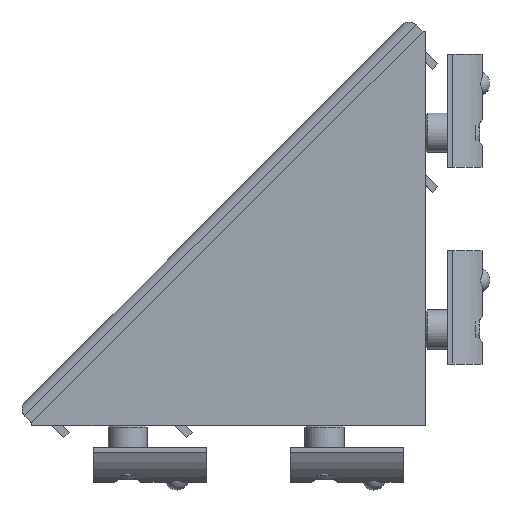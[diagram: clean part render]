
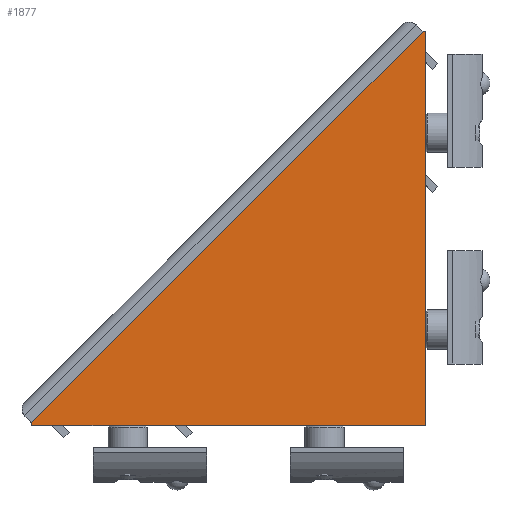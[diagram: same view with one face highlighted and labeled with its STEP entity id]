
A CAD part, top view. The second image highlights one B-rep face of the part: STEP entity #1877.
In plain terms, the highlighted planar face has unit normal (0, 0, 1).
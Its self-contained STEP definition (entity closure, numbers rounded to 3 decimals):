
#183=ORIENTED_EDGE('',*,*,#528,.T.);
#184=ORIENTED_EDGE('',*,*,#531,.T.);
#185=ORIENTED_EDGE('',*,*,#547,.T.);
#186=ORIENTED_EDGE('',*,*,#570,.T.);
#187=ORIENTED_EDGE('',*,*,#573,.T.);
#528=EDGE_CURVE('',#724,#727,#860,.T.);
#531=EDGE_CURVE('',#727,#729,#863,.T.);
#547=EDGE_CURVE('',#729,#743,#875,.T.);
#570=EDGE_CURVE('',#743,#765,#894,.T.);
#573=EDGE_CURVE('',#765,#724,#897,.T.);
#724=VERTEX_POINT('',#2540);
#727=VERTEX_POINT('',#2545);
#729=VERTEX_POINT('',#2551);
#743=VERTEX_POINT('',#2582);
#765=VERTEX_POINT('',#2628);
#860=LINE('',#2546,#1018);
#863=LINE('',#2552,#1021);
#875=LINE('',#2583,#1033);
#894=LINE('',#2629,#1052);
#897=LINE('',#2633,#1055);
#1018=VECTOR('',#2117,1000.);
#1021=VECTOR('',#2122,1000.);
#1033=VECTOR('',#2144,1000.);
#1052=VECTOR('',#2173,1000.);
#1055=VECTOR('',#2178,1000.);
#1183=EDGE_LOOP('',(#183,#184,#185,#186,#187));
#1291=FACE_BOUND('',#1183,.T.);
#1391=PLANE('',#1986);
#1877=ADVANCED_FACE('',(#1291),#1391,.T.);
#1986=AXIS2_PLACEMENT_3D('',#2634,#2179,#2180);
#2117=DIRECTION('',(-0.707,-0.707,0.));
#2122=DIRECTION('',(0.,-1.,0.));
#2144=DIRECTION('',(1.,0.,0.));
#2173=DIRECTION('',(0.,1.,0.));
#2178=DIRECTION('',(-1.,0.,0.));
#2179=DIRECTION('',(0.,0.,1.));
#2180=DIRECTION('',(1.,0.,0.));
#2540=CARTESIAN_POINT('',(79.5,80.,20.));
#2545=CARTESIAN_POINT('',(0.,0.5,20.));
#2546=CARTESIAN_POINT('',(79.5,80.,20.));
#2551=CARTESIAN_POINT('',(0.,0.,20.));
#2552=CARTESIAN_POINT('',(0.,0.5,20.));
#2582=CARTESIAN_POINT('',(80.,0.,20.));
#2583=CARTESIAN_POINT('',(0.,0.,20.));
#2628=CARTESIAN_POINT('',(80.,80.,20.));
#2629=CARTESIAN_POINT('',(80.,0.,20.));
#2633=CARTESIAN_POINT('',(80.,80.,20.));
#2634=CARTESIAN_POINT('',(0.,0.,20.));
